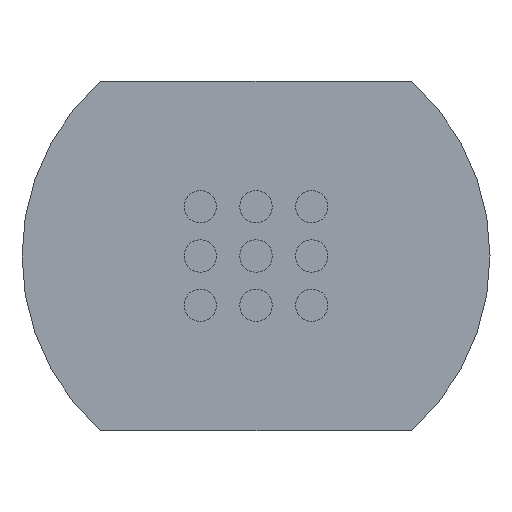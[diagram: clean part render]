
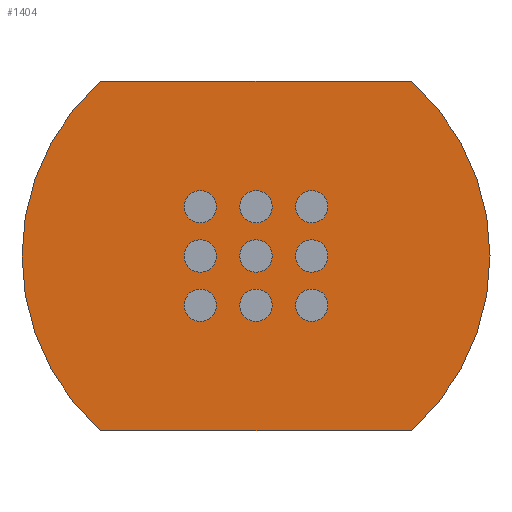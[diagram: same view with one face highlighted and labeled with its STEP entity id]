
A CAD part, front view. The second image highlights one B-rep face of the part: STEP entity #1404.
In plain terms, the highlighted free-form (B-spline) face has degree [1, 1] with [2, 2] control points.
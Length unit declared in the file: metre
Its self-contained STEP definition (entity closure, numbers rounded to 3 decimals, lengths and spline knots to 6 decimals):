
#51=LINE('',#2186,#144);
#52=LINE('',#2190,#145);
#144=VECTOR('',#1786,1.);
#145=VECTOR('',#1789,1.);
#237=B_SPLINE_SURFACE_WITH_KNOTS('',1,1,((#2172,#2173),(#2174,#2175)),
 .PLANE_SURF.,.F.,.F.,.F.,(2,2),(2,2),(0.,1.),(0.,1.),.UNSPECIFIED.);
#353=ORIENTED_EDGE('',*,*,#769,.F.);
#354=ORIENTED_EDGE('',*,*,#731,.F.);
#355=ORIENTED_EDGE('',*,*,#735,.T.);
#356=ORIENTED_EDGE('',*,*,#770,.T.);
#357=ORIENTED_EDGE('',*,*,#739,.T.);
#358=ORIENTED_EDGE('',*,*,#771,.T.);
#359=ORIENTED_EDGE('',*,*,#743,.T.);
#360=ORIENTED_EDGE('',*,*,#772,.T.);
#361=ORIENTED_EDGE('',*,*,#773,.F.);
#362=ORIENTED_EDGE('',*,*,#751,.F.);
#363=ORIENTED_EDGE('',*,*,#755,.T.);
#364=ORIENTED_EDGE('',*,*,#774,.T.);
#365=ORIENTED_EDGE('',*,*,#759,.T.);
#366=ORIENTED_EDGE('',*,*,#775,.T.);
#367=ORIENTED_EDGE('',*,*,#776,.F.);
#368=ORIENTED_EDGE('',*,*,#777,.T.);
#369=ORIENTED_EDGE('',*,*,#778,.F.);
#370=ORIENTED_EDGE('',*,*,#779,.F.);
#371=ORIENTED_EDGE('',*,*,#780,.F.);
#372=ORIENTED_EDGE('',*,*,#781,.F.);
#373=ORIENTED_EDGE('',*,*,#747,.F.);
#374=ORIENTED_EDGE('',*,*,#782,.F.);
#375=ORIENTED_EDGE('',*,*,#727,.F.);
#727=EDGE_CURVE('',#935,#936,#1071,.T.);
#731=EDGE_CURVE('',#939,#940,#1073,.T.);
#735=EDGE_CURVE('',#944,#943,#1075,.T.);
#739=EDGE_CURVE('',#948,#947,#1077,.T.);
#743=EDGE_CURVE('',#952,#951,#1079,.T.);
#747=EDGE_CURVE('',#955,#956,#1081,.T.);
#751=EDGE_CURVE('',#959,#960,#1083,.T.);
#755=EDGE_CURVE('',#964,#963,#1085,.T.);
#759=EDGE_CURVE('',#968,#967,#1087,.T.);
#769=EDGE_CURVE('',#940,#939,#1092,.T.);
#770=EDGE_CURVE('',#943,#944,#1093,.T.);
#771=EDGE_CURVE('',#947,#948,#1094,.T.);
#772=EDGE_CURVE('',#951,#952,#1095,.T.);
#773=EDGE_CURVE('',#960,#959,#1096,.T.);
#774=EDGE_CURVE('',#963,#964,#1097,.T.);
#775=EDGE_CURVE('',#967,#968,#1098,.T.);
#776=EDGE_CURVE('',#977,#978,#1099,.T.);
#777=EDGE_CURVE('',#977,#979,#51,.T.);
#778=EDGE_CURVE('',#980,#979,#1100,.T.);
#779=EDGE_CURVE('',#981,#980,#52,.T.);
#780=EDGE_CURVE('',#978,#981,#1101,.T.);
#781=EDGE_CURVE('',#956,#955,#1102,.T.);
#782=EDGE_CURVE('',#936,#935,#1103,.T.);
#935=VERTEX_POINT('',#1987);
#936=VERTEX_POINT('',#1989);
#939=VERTEX_POINT('',#2005);
#940=VERTEX_POINT('',#2007);
#943=VERTEX_POINT('',#2023);
#944=VERTEX_POINT('',#2025);
#947=VERTEX_POINT('',#2041);
#948=VERTEX_POINT('',#2043);
#951=VERTEX_POINT('',#2059);
#952=VERTEX_POINT('',#2061);
#955=VERTEX_POINT('',#2077);
#956=VERTEX_POINT('',#2079);
#959=VERTEX_POINT('',#2095);
#960=VERTEX_POINT('',#2097);
#963=VERTEX_POINT('',#2113);
#964=VERTEX_POINT('',#2115);
#967=VERTEX_POINT('',#2131);
#968=VERTEX_POINT('',#2133);
#977=VERTEX_POINT('',#2184);
#978=VERTEX_POINT('',#2185);
#979=VERTEX_POINT('',#2187);
#980=VERTEX_POINT('',#2189);
#981=VERTEX_POINT('',#2191);
#1071=CIRCLE('',#1648,0.003175);
#1073=CIRCLE('',#1650,0.003175);
#1075=CIRCLE('',#1652,0.003175);
#1077=CIRCLE('',#1654,0.003175);
#1079=CIRCLE('',#1656,0.003175);
#1081=CIRCLE('',#1658,0.003175);
#1083=CIRCLE('',#1660,0.003175);
#1085=CIRCLE('',#1662,0.003175);
#1087=CIRCLE('',#1664,0.003175);
#1092=CIRCLE('',#1669,0.003175);
#1093=CIRCLE('',#1670,0.003175);
#1094=CIRCLE('',#1671,0.003175);
#1095=CIRCLE('',#1672,0.003175);
#1096=CIRCLE('',#1673,0.003175);
#1097=CIRCLE('',#1674,0.003175);
#1098=CIRCLE('',#1675,0.003175);
#1099=CIRCLE('',#1676,0.045833);
#1100=CIRCLE('',#1677,0.045833);
#1101=CIRCLE('',#1678,0.045833);
#1102=CIRCLE('',#1679,0.003175);
#1103=CIRCLE('',#1680,0.003175);
#1158=EDGE_LOOP('',(#353,#354));
#1159=EDGE_LOOP('',(#355,#356));
#1160=EDGE_LOOP('',(#357,#358));
#1161=EDGE_LOOP('',(#359,#360));
#1162=EDGE_LOOP('',(#361,#362));
#1163=EDGE_LOOP('',(#363,#364));
#1164=EDGE_LOOP('',(#365,#366));
#1165=EDGE_LOOP('',(#367,#368,#369,#370,#371));
#1166=EDGE_LOOP('',(#372,#373));
#1167=EDGE_LOOP('',(#374,#375));
#1261=FACE_BOUND('',#1158,.T.);
#1262=FACE_BOUND('',#1159,.T.);
#1263=FACE_BOUND('',#1160,.T.);
#1264=FACE_BOUND('',#1161,.T.);
#1265=FACE_BOUND('',#1162,.T.);
#1266=FACE_BOUND('',#1163,.T.);
#1267=FACE_BOUND('',#1164,.T.);
#1268=FACE_BOUND('',#1165,.T.);
#1269=FACE_BOUND('',#1166,.T.);
#1270=FACE_BOUND('',#1167,.T.);
#1404=ADVANCED_FACE('',(#1261,#1262,#1263,#1264,#1265,#1266,#1267,#1268,
#1269,#1270),#237,.F.);
#1648=AXIS2_PLACEMENT_3D('',#1988,#1728,#1729);
#1650=AXIS2_PLACEMENT_3D('',#2006,#1732,#1733);
#1652=AXIS2_PLACEMENT_3D('',#2024,#1736,#1737);
#1654=AXIS2_PLACEMENT_3D('',#2042,#1740,#1741);
#1656=AXIS2_PLACEMENT_3D('',#2060,#1744,#1745);
#1658=AXIS2_PLACEMENT_3D('',#2078,#1748,#1749);
#1660=AXIS2_PLACEMENT_3D('',#2096,#1752,#1753);
#1662=AXIS2_PLACEMENT_3D('',#2114,#1756,#1757);
#1664=AXIS2_PLACEMENT_3D('',#2132,#1760,#1761);
#1669=AXIS2_PLACEMENT_3D('',#2176,#1770,#1771);
#1670=AXIS2_PLACEMENT_3D('',#2177,#1772,#1773);
#1671=AXIS2_PLACEMENT_3D('',#2178,#1774,#1775);
#1672=AXIS2_PLACEMENT_3D('',#2179,#1776,#1777);
#1673=AXIS2_PLACEMENT_3D('',#2180,#1778,#1779);
#1674=AXIS2_PLACEMENT_3D('',#2181,#1780,#1781);
#1675=AXIS2_PLACEMENT_3D('',#2182,#1782,#1783);
#1676=AXIS2_PLACEMENT_3D('',#2183,#1784,#1785);
#1677=AXIS2_PLACEMENT_3D('',#2188,#1787,#1788);
#1678=AXIS2_PLACEMENT_3D('',#2192,#1790,#1791);
#1679=AXIS2_PLACEMENT_3D('',#2193,#1792,#1793);
#1680=AXIS2_PLACEMENT_3D('',#2194,#1794,#1795);
#1728=DIRECTION('',(0.,-1.,0.));
#1729=DIRECTION('',(1.,0.,0.));
#1732=DIRECTION('',(0.,-1.,0.));
#1733=DIRECTION('',(1.,0.,0.));
#1736=DIRECTION('',(0.,1.,0.));
#1737=DIRECTION('',(1.,0.,0.));
#1740=DIRECTION('',(0.,1.,0.));
#1741=DIRECTION('',(1.,0.,0.));
#1744=DIRECTION('',(0.,1.,0.));
#1745=DIRECTION('',(1.,0.,0.));
#1748=DIRECTION('',(0.,-1.,0.));
#1749=DIRECTION('',(1.,0.,0.));
#1752=DIRECTION('',(0.,-1.,0.));
#1753=DIRECTION('',(1.,0.,0.));
#1756=DIRECTION('',(0.,1.,0.));
#1757=DIRECTION('',(1.,0.,0.));
#1760=DIRECTION('',(0.,1.,0.));
#1761=DIRECTION('',(1.,0.,0.));
#1770=DIRECTION('',(0.,-1.,0.));
#1771=DIRECTION('',(1.,0.,0.));
#1772=DIRECTION('',(0.,1.,0.));
#1773=DIRECTION('',(1.,0.,0.));
#1774=DIRECTION('',(0.,1.,0.));
#1775=DIRECTION('',(1.,0.,0.));
#1776=DIRECTION('',(0.,1.,0.));
#1777=DIRECTION('',(1.,0.,0.));
#1778=DIRECTION('',(0.,-1.,0.));
#1779=DIRECTION('',(1.,0.,0.));
#1780=DIRECTION('',(0.,1.,0.));
#1781=DIRECTION('',(1.,0.,0.));
#1782=DIRECTION('',(0.,1.,0.));
#1783=DIRECTION('',(1.,0.,0.));
#1784=DIRECTION('',(0.,1.,0.));
#1785=DIRECTION('',(1.,0.,0.));
#1786=DIRECTION('',(-1.,0.,0.));
#1787=DIRECTION('',(0.,1.,0.));
#1788=DIRECTION('',(1.,0.,0.));
#1789=DIRECTION('',(-1.,0.,0.));
#1790=DIRECTION('',(0.,1.,0.));
#1791=DIRECTION('',(1.,0.,0.));
#1792=DIRECTION('',(0.,-1.,0.));
#1793=DIRECTION('',(1.,0.,0.));
#1794=DIRECTION('',(0.,-1.,0.));
#1795=DIRECTION('',(1.,0.,0.));
#1987=CARTESIAN_POINT('',(0.014097,0.019244,0.009652));
#1988=CARTESIAN_POINT('',(0.010922,0.019244,0.009652));
#1989=CARTESIAN_POINT('',(0.007747,0.019244,0.009652));
#2005=CARTESIAN_POINT('',(0.003175,0.019244,0.009652));
#2006=CARTESIAN_POINT('',(0.,0.019244,0.009652));
#2007=CARTESIAN_POINT('',(-0.003175,0.019244,0.009652));
#2023=CARTESIAN_POINT('',(0.014097,0.019244,0.));
#2024=CARTESIAN_POINT('',(0.010922,0.019244,0.));
#2025=CARTESIAN_POINT('',(0.007747,0.019244,0.));
#2041=CARTESIAN_POINT('',(0.003175,0.019244,0.));
#2042=CARTESIAN_POINT('',(0.,0.019244,0.));
#2043=CARTESIAN_POINT('',(-0.003175,0.019244,0.));
#2059=CARTESIAN_POINT('',(0.003175,0.019244,-0.009652));
#2060=CARTESIAN_POINT('',(0.,0.019244,-0.009652));
#2061=CARTESIAN_POINT('',(-0.003175,0.019244,-0.009652));
#2077=CARTESIAN_POINT('',(-0.007747,0.019244,-0.009652));
#2078=CARTESIAN_POINT('',(-0.010922,0.019244,-0.009652));
#2079=CARTESIAN_POINT('',(-0.014097,0.019244,-0.009652));
#2095=CARTESIAN_POINT('',(-0.007747,0.019244,0.));
#2096=CARTESIAN_POINT('',(-0.010922,0.019244,0.));
#2097=CARTESIAN_POINT('',(-0.014097,0.019244,0.));
#2113=CARTESIAN_POINT('',(-0.007747,0.019244,0.009652));
#2114=CARTESIAN_POINT('',(-0.010922,0.019244,0.009652));
#2115=CARTESIAN_POINT('',(-0.014097,0.019244,0.009652));
#2131=CARTESIAN_POINT('',(0.014097,0.019244,-0.009652));
#2132=CARTESIAN_POINT('',(0.010922,0.019244,-0.009652));
#2133=CARTESIAN_POINT('',(0.007747,0.019244,-0.009652));
#2172=CARTESIAN_POINT('',(-0.051021,0.019244,0.03769));
#2173=CARTESIAN_POINT('',(-0.051021,0.019244,-0.03769));
#2174=CARTESIAN_POINT('',(0.051021,0.019244,0.03769));
#2175=CARTESIAN_POINT('',(0.051021,0.019244,-0.03769));
#2176=CARTESIAN_POINT('',(0.,0.019244,0.009652));
#2177=CARTESIAN_POINT('',(0.010922,0.019244,0.));
#2178=CARTESIAN_POINT('',(0.,0.019244,0.));
#2179=CARTESIAN_POINT('',(0.,0.019244,-0.009652));
#2180=CARTESIAN_POINT('',(-0.010922,0.019244,0.));
#2181=CARTESIAN_POINT('',(-0.010922,0.019244,0.009652));
#2182=CARTESIAN_POINT('',(0.010922,0.019244,-0.009652));
#2183=CARTESIAN_POINT('',(0.,0.019244,0.));
#2184=CARTESIAN_POINT('',(0.030441,0.019244,0.034264));
#2185=CARTESIAN_POINT('',(0.045833,0.019244,0.));
#2186=CARTESIAN_POINT('',(0.,0.019244,0.034264));
#2187=CARTESIAN_POINT('',(-0.030441,0.019244,0.034264));
#2188=CARTESIAN_POINT('',(0.,0.019244,0.));
#2189=CARTESIAN_POINT('',(-0.030441,0.019244,-0.034264));
#2190=CARTESIAN_POINT('',(0.,0.019244,-0.034264));
#2191=CARTESIAN_POINT('',(0.030441,0.019244,-0.034264));
#2192=CARTESIAN_POINT('',(0.,0.019244,0.));
#2193=CARTESIAN_POINT('',(-0.010922,0.019244,-0.009652));
#2194=CARTESIAN_POINT('',(0.010922,0.019244,0.009652));
